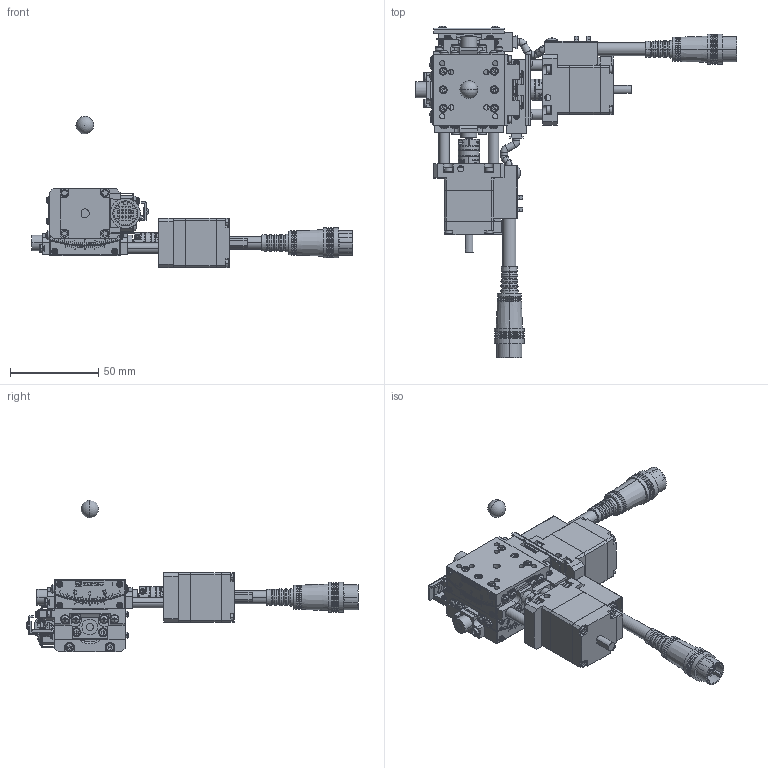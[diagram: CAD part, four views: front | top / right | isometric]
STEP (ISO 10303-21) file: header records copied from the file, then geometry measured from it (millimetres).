
FILE_DESCRIPTION (( 'STEP AP203' ), '1' );
FILE_NAME ('SA04B-RS02.STEP', '2019-02-26T08:39:25', ( '' ), ( '' ), 'SwSTEP 2.0', 'SolidWorks 2018', '' );
FILE_SCHEMA (( 'CONFIG_CONTROL_DESIGN' ));
Length unit declared in the file: millimetre
Products named in the file (11): second table-Part-1; base-Part-3; base; base-Part-2; second table-Part-3; second table-Part-2; base-Part-1; second table; SA04B-RS02; table; rotation center
Assembly tree (10 placements, depth 3):
  SA04B-RS02
    second table
      second table-Part-1
      second table-Part-2
      second table-Part-3
    base
      base-Part-1
      base-Part-2
      base-Part-3
    rotation center
    table
Bounding box: 182.5 x 188.18 x 85.8 mm (x, y, z)
Volume: 102810.1 mm3; surface area: 75551 mm2
Topology: 19 solids, 19 shells, 5127 faces, 13024 edges, 8132 vertices
Faces by surface type: plane 3275, cylinder 1138, cone 484, torus 128, sphere 90, bspline 12
Entity records: 159093 total; most frequent: CARTESIAN_POINT 32329, DIRECTION 26962, ORIENTED_EDGE 25702, EDGE_CURVE 12851, AXIS2_PLACEMENT_3D 9346, VECTOR 8270, LINE 8270, VERTEX_POINT 8105
